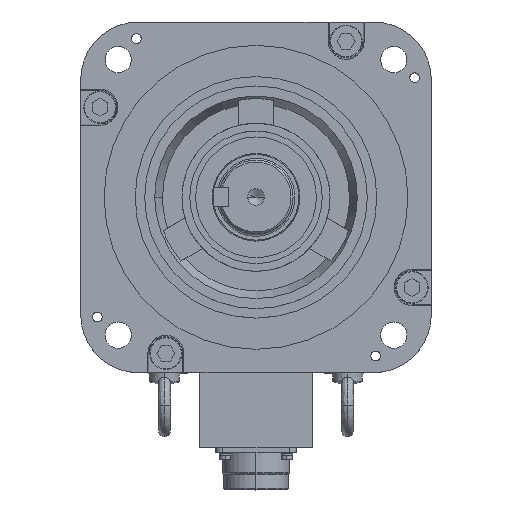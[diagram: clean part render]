
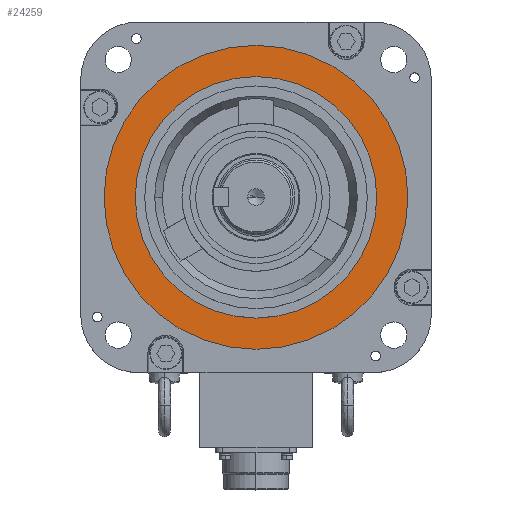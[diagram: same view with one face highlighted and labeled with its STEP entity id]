
A CAD part, top view. The second image highlights one B-rep face of the part: STEP entity #24259.
In plain terms, the highlighted planar face has unit normal (0, 0, 1).
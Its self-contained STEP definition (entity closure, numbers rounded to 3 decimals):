
#2244 = DIRECTION ( 'NONE',  ( 1., 0., 0. ) ) ;
#2346 = ORIENTED_EDGE ( 'NONE', *, *, #34048, .T. ) ;
#3039 = AXIS2_PLACEMENT_3D ( 'NONE', #4659, #27443, #28075 ) ;
#3135 = AXIS2_PLACEMENT_3D ( 'NONE', #16831, #36191, #6758 ) ;
#3180 = CIRCLE ( 'NONE', #39533, 78. ) ;
#3594 = DIRECTION ( 'NONE',  ( -1., 0., 0. ) ) ;
#4549 = CIRCLE ( 'NONE', #27192, 78. ) ;
#4659 = CARTESIAN_POINT ( 'NONE',  ( -78.936, -78.936, -0.5 ) ) ;
#6758 = DIRECTION ( 'NONE',  ( -1., 0., 0. ) ) ;
#8545 = EDGE_LOOP ( 'NONE', ( #40518, #11243 ) ) ;
#10231 = ORIENTED_EDGE ( 'NONE', *, *, #13523, .T. ) ;
#10795 = DIRECTION ( 'NONE',  ( 0., 0., 1. ) ) ;
#10970 = CARTESIAN_POINT ( 'NONE',  ( -62., 0., -0.5 ) ) ;
#11243 = ORIENTED_EDGE ( 'NONE', *, *, #37139, .T. ) ;
#11289 = PLANE ( 'NONE',  #3039 ) ;
#12179 = EDGE_CURVE ( 'NONE', #41814, #40188, #4549, .T. ) ;
#13109 = CARTESIAN_POINT ( 'NONE',  ( 62., 0., -0.5 ) ) ;
#13523 = EDGE_CURVE ( 'NONE', #29237, #18010, #19599, .T. ) ;
#14243 = CARTESIAN_POINT ( 'NONE',  ( 0., 0., -0.5 ) ) ;
#16831 = CARTESIAN_POINT ( 'NONE',  ( 0., 0., -0.5 ) ) ;
#18010 = VERTEX_POINT ( 'NONE', #10970 ) ;
#18499 = CARTESIAN_POINT ( 'NONE',  ( -78., 0., -0.5 ) ) ;
#18556 = CARTESIAN_POINT ( 'NONE',  ( 0., 0., -0.5 ) ) ;
#19599 = CIRCLE ( 'NONE', #24490, 62. ) ;
#20956 = FACE_BOUND ( 'NONE', #39874, .T. ) ;
#21163 = FACE_OUTER_BOUND ( 'NONE', #8545, .T. ) ;
#23905 = DIRECTION ( 'NONE',  ( 1., 0., 0. ) ) ;
#24259 = ADVANCED_FACE ( 'NONE', ( #21163, #20956 ), #11289, .T. ) ;
#24490 = AXIS2_PLACEMENT_3D ( 'NONE', #36472, #33233, #3594 ) ;
#27192 = AXIS2_PLACEMENT_3D ( 'NONE', #14243, #10795, #23905 ) ;
#27443 = DIRECTION ( 'NONE',  ( 0., 0., 1. ) ) ;
#28075 = DIRECTION ( 'NONE',  ( 1., 0., 0. ) ) ;
#28460 = DIRECTION ( 'NONE',  ( 0., 0., 1. ) ) ;
#29237 = VERTEX_POINT ( 'NONE', #13109 ) ;
#33233 = DIRECTION ( 'NONE',  ( 0., 0., -1. ) ) ;
#34048 = EDGE_CURVE ( 'NONE', #18010, #29237, #40206, .T. ) ;
#36191 = DIRECTION ( 'NONE',  ( 0., 0., -1. ) ) ;
#36472 = CARTESIAN_POINT ( 'NONE',  ( 0., 0., -0.5 ) ) ;
#37095 = CARTESIAN_POINT ( 'NONE',  ( 78., 0., -0.5 ) ) ;
#37139 = EDGE_CURVE ( 'NONE', #40188, #41814, #3180, .T. ) ;
#39533 = AXIS2_PLACEMENT_3D ( 'NONE', #18556, #28460, #2244 ) ;
#39874 = EDGE_LOOP ( 'NONE', ( #2346, #10231 ) ) ;
#40188 = VERTEX_POINT ( 'NONE', #18499 ) ;
#40206 = CIRCLE ( 'NONE', #3135, 62. ) ;
#40518 = ORIENTED_EDGE ( 'NONE', *, *, #12179, .T. ) ;
#41814 = VERTEX_POINT ( 'NONE', #37095 ) ;
